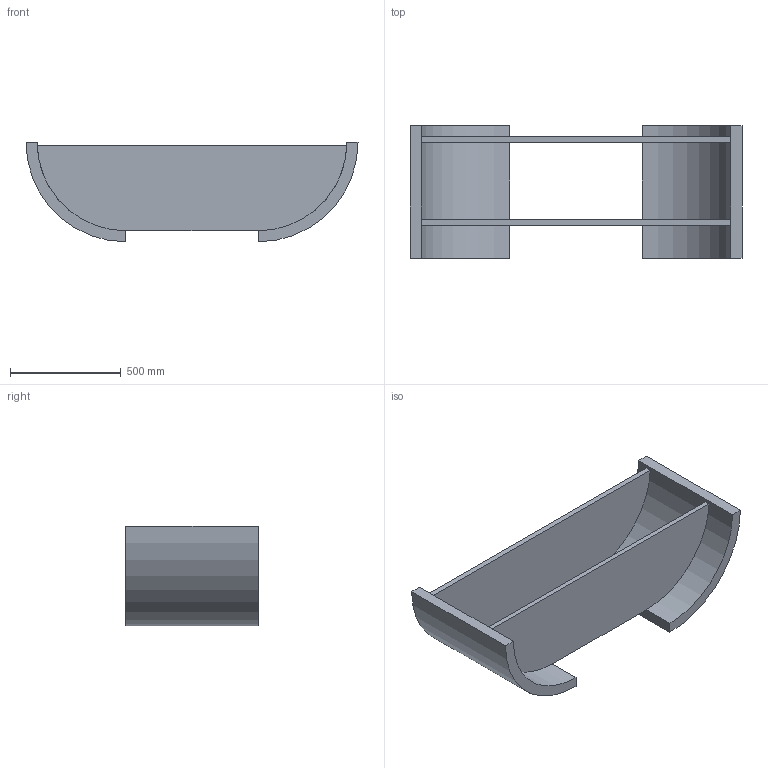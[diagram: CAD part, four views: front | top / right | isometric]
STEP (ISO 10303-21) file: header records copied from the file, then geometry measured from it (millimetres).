
FILE_DESCRIPTION (( 'STEP AP214' ), '1' );
FILE_NAME ('055E001_R00 Console Low.STEP', '2023-11-23T08:46:16', ( '' ), ( '' ), 'SwSTEP 2.0', 'SolidWorks 2022', '' );
FILE_SCHEMA (( 'AUTOMOTIVE_DESIGN' ));
Length unit declared in the file: millimetre
Products named in the file (4): 055E201_R00 Console Low - side; 055E202_R00 Console Low - shelf; 055E001_R00 Console Low; MirrorConsole Low - side
Assembly tree (4 placements, depth 2):
  055E001_R00 Console Low
    055E201_R00 Console Low - side
    MirrorConsole Low - side
    055E202_R00 Console Low - shelf  x2
Bounding box: 1500 x 600 x 450 mm (x, y, z)
Volume: 63571817.6 mm3; surface area: 3898354.2 mm2
Topology: 4 solids, 4 shells, 24 faces, 48 edges, 32 vertices
Faces by surface type: plane 16, cylinder 8
Entity records: 634 total; most frequent: DIRECTION 98, CARTESIAN_POINT 85, ORIENTED_EDGE 72, AXIS2_PLACEMENT_3D 37, EDGE_CURVE 36, VERTEX_POINT 24, VECTOR 24, LINE 24
